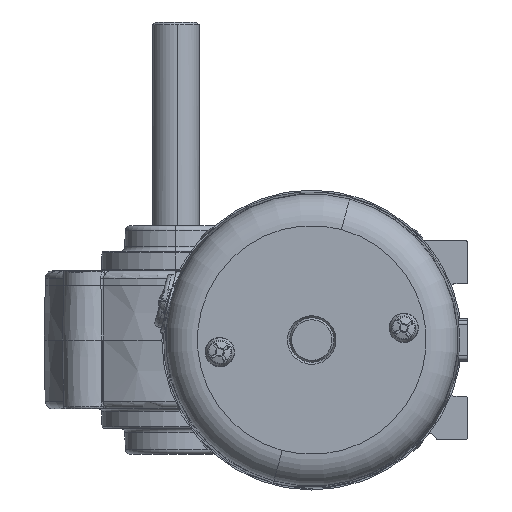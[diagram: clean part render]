
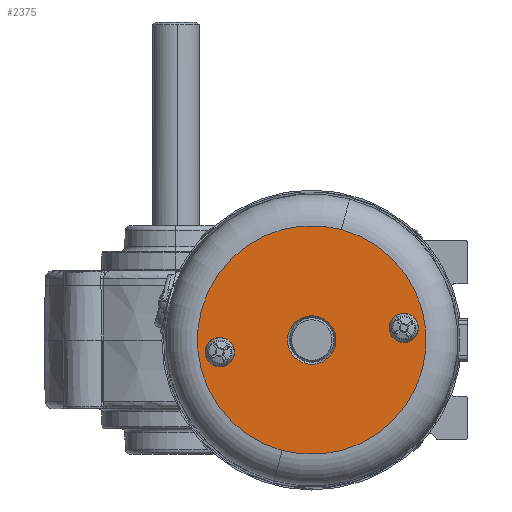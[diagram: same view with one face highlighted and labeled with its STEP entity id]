
A CAD part, left-side view. The second image highlights one B-rep face of the part: STEP entity #2375.
In plain terms, the highlighted planar face has unit normal (-1, 0, 0).
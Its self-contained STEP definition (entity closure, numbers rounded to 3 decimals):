
#2375 = ADVANCED_FACE ( 'NONE', ( #4289, #88540, #54459, #60393 ), #67130, .T. ) ;
#2818 = ORIENTED_EDGE ( 'NONE', *, *, #78885, .T. ) ;
#4289 = FACE_BOUND ( 'NONE', #63322, .T. ) ;
#4494 = AXIS2_PLACEMENT_3D ( 'NONE', #67388, #31093, #65609 ) ;
#4576 = CIRCLE ( 'NONE', #6026, 2.159 ) ;
#4796 = DIRECTION ( 'NONE',  ( 1., 0., 0. ) ) ;
#5349 = ORIENTED_EDGE ( 'NONE', *, *, #13186, .F. ) ;
#5648 = CARTESIAN_POINT ( 'NONE',  ( 93.636, 116.546, 106.108 ) ) ;
#6026 = AXIS2_PLACEMENT_3D ( 'NONE', #33083, #4796, #18482 ) ;
#7455 = AXIS2_PLACEMENT_3D ( 'NONE', #19844, #70180, #68517 ) ;
#9234 = CARTESIAN_POINT ( 'NONE',  ( 93.636, 90.415, 126.968 ) ) ;
#10725 = AXIS2_PLACEMENT_3D ( 'NONE', #38921, #30726, #53460 ) ;
#11873 = AXIS2_PLACEMENT_3D ( 'NONE', #67788, #14061, #89644 ) ;
#12043 = ORIENTED_EDGE ( 'NONE', *, *, #61177, .T. ) ;
#13101 = DIRECTION ( 'NONE',  ( 0., 0.966, 0.259 ) ) ;
#13186 = EDGE_CURVE ( 'NONE', #85638, #50675, #81392, .T. ) ;
#13512 = CARTESIAN_POINT ( 'NONE',  ( 93.636, 110.327, 129.317 ) ) ;
#14061 = DIRECTION ( 'NONE',  ( 1., 0., 0. ) ) ;
#14139 = VERTEX_POINT ( 'NONE', #59152 ) ;
#14989 = DIRECTION ( 'NONE',  ( 0., 0.966, 0.259 ) ) ;
#18482 = DIRECTION ( 'NONE',  ( 0., 0.966, 0.259 ) ) ;
#19844 = CARTESIAN_POINT ( 'NONE',  ( 93.636, 111.939, 123.301 ) ) ;
#23251 = EDGE_LOOP ( 'NONE', ( #56099, #5349 ) ) ;
#30726 = DIRECTION ( 'NONE',  ( 1., 0., 0. ) ) ;
#30925 = ORIENTED_EDGE ( 'NONE', *, *, #89993, .T. ) ;
#31093 = DIRECTION ( 'NONE',  ( 1., 0., 0. ) ) ;
#31310 = VERTEX_POINT ( 'NONE', #55335 ) ;
#33083 = CARTESIAN_POINT ( 'NONE',  ( 93.636, 135.548, 120.193 ) ) ;
#33433 = VERTEX_POINT ( 'NONE', #9234 ) ;
#35083 = CARTESIAN_POINT ( 'NONE',  ( 93.636, 88.33, 126.409 ) ) ;
#36191 = VERTEX_POINT ( 'NONE', #13512 ) ;
#37940 = EDGE_CURVE ( 'NONE', #31310, #14139, #4576, .T. ) ;
#38921 = CARTESIAN_POINT ( 'NONE',  ( 93.636, 111.939, 123.301 ) ) ;
#39646 = DIRECTION ( 'NONE',  ( 0., 0.259, -0.966 ) ) ;
#39730 = CARTESIAN_POINT ( 'NONE',  ( 93.636, 86.245, 125.85 ) ) ;
#40777 = DIRECTION ( 'NONE',  ( -1., 0., 0. ) ) ;
#43242 = DIRECTION ( 'NONE',  ( 1., 0., 0. ) ) ;
#43897 = CIRCLE ( 'NONE', #7455, 6.228 ) ;
#45510 = AXIS2_PLACEMENT_3D ( 'NONE', #35083, #43242, #14989 ) ;
#45982 = DIRECTION ( 'NONE',  ( 1., 0., 0. ) ) ;
#50675 = VERTEX_POINT ( 'NONE', #90135 ) ;
#51311 = CIRCLE ( 'NONE', #45510, 2.159 ) ;
#52277 = ORIENTED_EDGE ( 'NONE', *, *, #71640, .T. ) ;
#53163 = CIRCLE ( 'NONE', #10725, 29.371 ) ;
#53460 = DIRECTION ( 'NONE',  ( 0., 0.259, -0.966 ) ) ;
#54459 = FACE_OUTER_BOUND ( 'NONE', #23251, .T. ) ;
#55335 = CARTESIAN_POINT ( 'NONE',  ( 93.636, 133.462, 119.634 ) ) ;
#55918 = DIRECTION ( 'NONE',  ( 1., 0., 0. ) ) ;
#56099 = ORIENTED_EDGE ( 'NONE', *, *, #68421, .F. ) ;
#56389 = VERTEX_POINT ( 'NONE', #60814 ) ;
#59152 = CARTESIAN_POINT ( 'NONE',  ( 93.636, 137.633, 120.751 ) ) ;
#59235 = CARTESIAN_POINT ( 'NONE',  ( 93.636, 111.939, 123.301 ) ) ;
#60393 = FACE_BOUND ( 'NONE', #67585, .T. ) ;
#60814 = CARTESIAN_POINT ( 'NONE',  ( 93.636, 113.551, 117.285 ) ) ;
#60844 = ORIENTED_EDGE ( 'NONE', *, *, #37940, .T. ) ;
#61177 = EDGE_CURVE ( 'NONE', #14139, #31310, #72819, .T. ) ;
#62252 = CARTESIAN_POINT ( 'NONE',  ( 93.636, 88.33, 126.409 ) ) ;
#63322 = EDGE_LOOP ( 'NONE', ( #30925, #52277 ) ) ;
#65609 = DIRECTION ( 'NONE',  ( 0., 0.966, 0.259 ) ) ;
#66867 = AXIS2_PLACEMENT_3D ( 'NONE', #59235, #45982, #39646 ) ;
#67130 = PLANE ( 'NONE',  #68361 ) ;
#67388 = CARTESIAN_POINT ( 'NONE',  ( 93.636, 111.939, 123.301 ) ) ;
#67585 = EDGE_LOOP ( 'NONE', ( #77877, #2818 ) ) ;
#67788 = CARTESIAN_POINT ( 'NONE',  ( 93.636, 135.548, 120.193 ) ) ;
#67915 = CIRCLE ( 'NONE', #82442, 2.159 ) ;
#68361 = AXIS2_PLACEMENT_3D ( 'NONE', #5648, #40777, #68450 ) ;
#68421 = EDGE_CURVE ( 'NONE', #50675, #85638, #53163, .T. ) ;
#68450 = DIRECTION ( 'NONE',  ( 0., 0.966, 0.259 ) ) ;
#68517 = DIRECTION ( 'NONE',  ( 0., 0.966, 0.259 ) ) ;
#70180 = DIRECTION ( 'NONE',  ( 1., 0., 0. ) ) ;
#71640 = EDGE_CURVE ( 'NONE', #76410, #33433, #67915, .T. ) ;
#72819 = CIRCLE ( 'NONE', #11873, 2.159 ) ;
#76006 = CARTESIAN_POINT ( 'NONE',  ( 93.636, 104.337, 151.671 ) ) ;
#76410 = VERTEX_POINT ( 'NONE', #39730 ) ;
#77877 = ORIENTED_EDGE ( 'NONE', *, *, #79929, .T. ) ;
#78885 = EDGE_CURVE ( 'NONE', #36191, #56389, #80038, .T. ) ;
#79929 = EDGE_CURVE ( 'NONE', #56389, #36191, #43897, .T. ) ;
#80038 = CIRCLE ( 'NONE', #4494, 6.228 ) ;
#81128 = EDGE_LOOP ( 'NONE', ( #12043, #60844 ) ) ;
#81392 = CIRCLE ( 'NONE', #66867, 29.371 ) ;
#82442 = AXIS2_PLACEMENT_3D ( 'NONE', #62252, #55918, #13101 ) ;
#85638 = VERTEX_POINT ( 'NONE', #76006 ) ;
#88540 = FACE_BOUND ( 'NONE', #81128, .T. ) ;
#89644 = DIRECTION ( 'NONE',  ( 0., 0.966, 0.259 ) ) ;
#89993 = EDGE_CURVE ( 'NONE', #33433, #76410, #51311, .T. ) ;
#90135 = CARTESIAN_POINT ( 'NONE',  ( 93.636, 119.541, 94.93 ) ) ;
